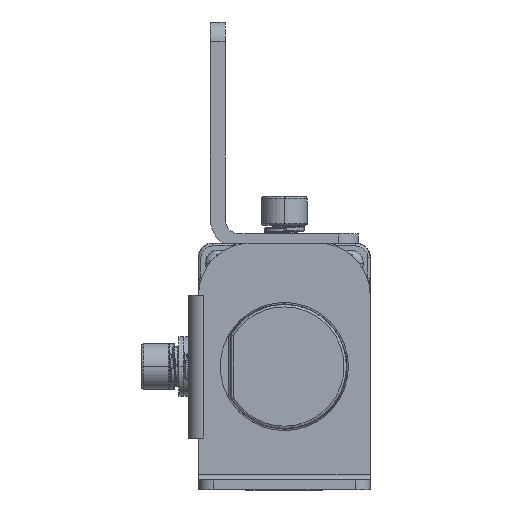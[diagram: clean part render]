
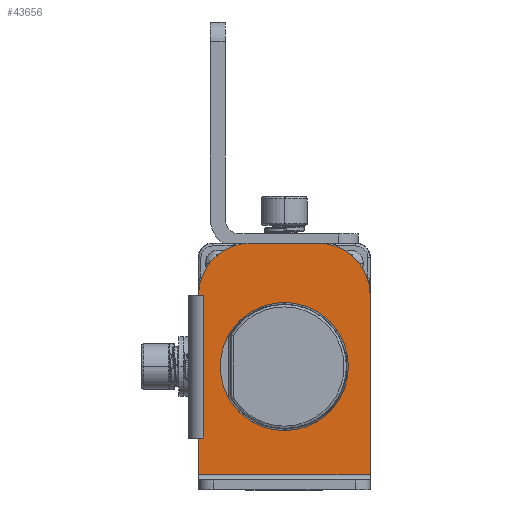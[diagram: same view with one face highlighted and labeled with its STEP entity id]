
A CAD part, front view. The second image highlights one B-rep face of the part: STEP entity #43656.
In plain terms, the highlighted planar face has unit normal (0, -1, 0) as drawn and (0, 0, -1) by its records, which use the part's own axes.
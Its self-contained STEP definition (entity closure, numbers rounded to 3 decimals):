
#42993=CARTESIAN_POINT('',(25.,0.,-2.));
#42994=DIRECTION('',(0.,0.,-1.));
#42995=DIRECTION('',(0.,-1.,0.));
#42996=AXIS2_PLACEMENT_3D('',#42993,#42994,#42995);
#42998=CARTESIAN_POINT('',(25.,0.,-2.));
#42999=DIRECTION('',(0.,0.,-1.));
#43000=DIRECTION('',(0.,1.,0.));
#43001=AXIS2_PLACEMENT_3D('',#42998,#42999,#43000);
#43003=DIRECTION('',(0.,-1.,0.));
#43004=VECTOR('',#43003,1.);
#43005=CARTESIAN_POINT('',(39.5,-16.4,-2.));
#43006=LINE('',#43005,#43004);
#43007=CARTESIAN_POINT('',(39.5,-6.9,-2.));
#43008=DIRECTION('',(0.,0.,-1.));
#43009=DIRECTION('',(1.,0.,0.));
#43010=AXIS2_PLACEMENT_3D('',#43007,#43008,#43009);
#43012=DIRECTION('',(0.,1.,0.));
#43013=VECTOR('',#43012,13.8);
#43014=CARTESIAN_POINT('',(50.,-6.9,-2.));
#43015=LINE('',#43014,#43013);
#43016=CARTESIAN_POINT('',(39.5,6.9,-2.));
#43017=DIRECTION('',(0.,0.,-1.));
#43018=DIRECTION('',(0.,1.,0.));
#43019=AXIS2_PLACEMENT_3D('',#43016,#43017,#43018);
#43021=DIRECTION('',(0.,-1.,0.));
#43022=VECTOR('',#43021,1.);
#43023=CARTESIAN_POINT('',(10.5,-16.4,-2.));
#43024=LINE('',#43023,#43022);
#43083=DIRECTION('',(1.,0.,0.));
#43084=VECTOR('',#43083,29.);
#43085=CARTESIAN_POINT('',(10.5,-16.4,-2.));
#43086=LINE('',#43085,#43084);
#43105=DIRECTION('',(-1.,0.,0.));
#43106=VECTOR('',#43105,7.5);
#43107=CARTESIAN_POINT('',(10.5,-17.4,-2.));
#43108=LINE('',#43107,#43106);
#43131=DIRECTION('',(0.,1.,0.));
#43132=VECTOR('',#43131,34.8);
#43133=CARTESIAN_POINT('',(3.,-17.4,-2.));
#43134=LINE('',#43133,#43132);
#43149=DIRECTION('',(-1.,0.,0.));
#43150=VECTOR('',#43149,36.5);
#43151=CARTESIAN_POINT('',(39.5,17.4,-2.));
#43152=LINE('',#43151,#43150);
#43485=CARTESIAN_POINT('',(3.,-17.4,-2.));
#43487=VERTEX_POINT('',#43485);
#43489=CARTESIAN_POINT('',(3.,17.4,-2.));
#43491=VERTEX_POINT('',#43489);
#43501=CARTESIAN_POINT('',(39.5,17.4,-2.));
#43502=CARTESIAN_POINT('',(50.,6.9,-2.));
#43503=VERTEX_POINT('',#43501);
#43504=VERTEX_POINT('',#43502);
#43505=CARTESIAN_POINT('',(50.,-6.9,-2.));
#43506=CARTESIAN_POINT('',(39.5,-17.4,-2.));
#43507=VERTEX_POINT('',#43505);
#43508=VERTEX_POINT('',#43506);
#43525=CARTESIAN_POINT('',(25.,-13.,-2.));
#43526=CARTESIAN_POINT('',(25.,13.,-2.));
#43527=VERTEX_POINT('',#43525);
#43528=VERTEX_POINT('',#43526);
#43573=CARTESIAN_POINT('',(39.5,-16.4,-2.));
#43574=VERTEX_POINT('',#43573);
#43577=CARTESIAN_POINT('',(10.5,-16.4,-2.));
#43578=VERTEX_POINT('',#43577);
#43621=CARTESIAN_POINT('',(10.5,-17.4,-2.));
#43622=VERTEX_POINT('',#43621);
#43625=CARTESIAN_POINT('',(50.,-17.4,-2.));
#43626=DIRECTION('',(0.,0.,-1.));
#43627=DIRECTION('',(-1.,0.,0.));
#43628=AXIS2_PLACEMENT_3D('',#43625,#43626,#43627);
#43629=PLANE('',#43628);
#43631=ORIENTED_EDGE('',*,*,#43630,.T.);
#43633=ORIENTED_EDGE('',*,*,#43632,.F.);
#43635=ORIENTED_EDGE('',*,*,#43634,.T.);
#43637=ORIENTED_EDGE('',*,*,#43636,.F.);
#43639=ORIENTED_EDGE('',*,*,#43638,.T.);
#43641=ORIENTED_EDGE('',*,*,#43640,.F.);
#43643=ORIENTED_EDGE('',*,*,#43642,.F.);
#43645=ORIENTED_EDGE('',*,*,#43644,.F.);
#43647=ORIENTED_EDGE('',*,*,#43646,.T.);
#43648=EDGE_LOOP('',(#43631,#43633,#43635,#43637,#43639,#43641,#43643,#43645,
#43647));
#43649=FACE_OUTER_BOUND('',#43648,.F.);
#43651=ORIENTED_EDGE('',*,*,#43650,.T.);
#43653=ORIENTED_EDGE('',*,*,#43652,.T.);
#43654=EDGE_LOOP('',(#43651,#43653));
#43655=FACE_BOUND('',#43654,.F.);
#43656=ADVANCED_FACE('',(#43649,#43655),#43629,.T.);
#42997=CIRCLE('',#42996,13.);
#43002=CIRCLE('',#43001,13.);
#43011=CIRCLE('',#43010,10.5);
#43020=CIRCLE('',#43019,10.5);
#43630=EDGE_CURVE('',#43574,#43508,#43006,.T.);
#43632=EDGE_CURVE('',#43507,#43508,#43011,.T.);
#43634=EDGE_CURVE('',#43507,#43504,#43015,.T.);
#43636=EDGE_CURVE('',#43503,#43504,#43020,.T.);
#43638=EDGE_CURVE('',#43503,#43491,#43152,.T.);
#43640=EDGE_CURVE('',#43487,#43491,#43134,.T.);
#43642=EDGE_CURVE('',#43622,#43487,#43108,.T.);
#43644=EDGE_CURVE('',#43578,#43622,#43024,.T.);
#43646=EDGE_CURVE('',#43578,#43574,#43086,.T.);
#43650=EDGE_CURVE('',#43527,#43528,#42997,.T.);
#43652=EDGE_CURVE('',#43528,#43527,#43002,.T.);
